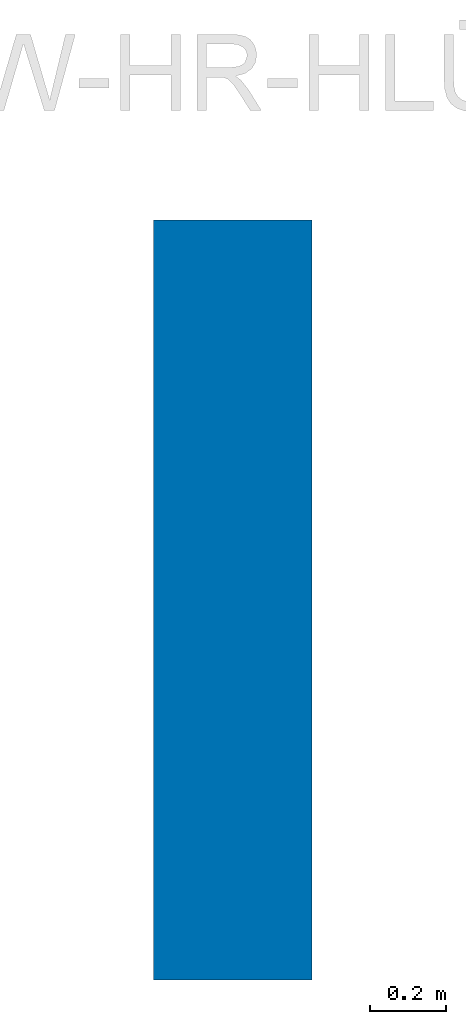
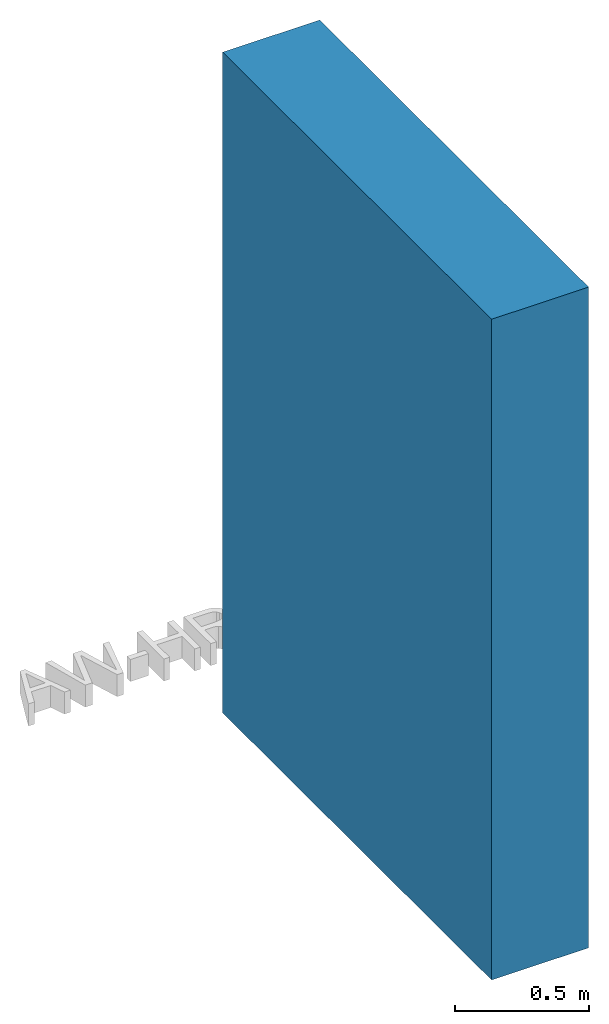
# Not in any storey, part 1 of 2: 1 wall.
"""IFC2X3 model written with IfcOpenShell, lengths in metres."""

import ifcopenshell
import ifcopenshell.guid

model = None  # the IFC model being written
_history = None  # IfcOwnerHistory: only IFC2X3 demands one
_inside = {}  # id of a spatial element -> (the spatial element, [elements in it])
_under = {}  # id of a project, library or spatial element -> (it, [spatial elements below it])
_declared = {}  # id of a project -> (the project, [libraries it declares])
_typed = {}  # id of a type object -> (the type object, [elements of that type])
_made_of = {}  # id of a material, layer set ... -> (it, [elements and type objects made of it])


def new_model(schema):
    """Start an empty IFC model of exactly this schema.

    Asked for "IFC4X3", IfcOpenShell would pick the latest addendum, in which some entities
    have other attributes; the version numbers below select the first issue.
    IFC2X3 requires an IfcOwnerHistory on every rooted entity: one is made here for all.
    """
    global model, _history
    if schema == "IFC4X3":
        model = ifcopenshell.file(schema_version=(4, 3, 0, 0))
    else:
        model = ifcopenshell.file(schema=schema)
    _inside.clear()
    _under.clear()
    _declared.clear()
    _typed.clear()
    _made_of.clear()
    _history = None
    if model.schema == "IFC2X3":
        org = make("IfcOrganization", Name="unknown")
        user = make(
            "IfcPersonAndOrganization",
            ThePerson=make("IfcPerson", FamilyName="unknown"),
            TheOrganization=org,
        )
        app = make(
            "IfcApplication",
            ApplicationDeveloper=org,
            Version="unknown",
            ApplicationFullName="unknown",
            ApplicationIdentifier="unknown",
        )
        _history = make(
            "IfcOwnerHistory",
            OwningUser=user,
            OwningApplication=app,
            ChangeAction="ADDED",
            CreationDate=0,
        )
    return model


def make(cls, **values):
    """One entity of the class cls with the attributes given. An attribute that is None is left unset."""
    return model.create_entity(
        cls, **{name: value for name, value in values.items() if value is not None}
    )


def entity(cls, *values):
    """Any entity or typed value of the class cls, its attributes in the order of the schema. None: left unset."""
    e = model.create_entity(cls)
    for i, value in enumerate(values):
        if value is not None:
            e[i] = value
    return e


def rooted(cls, **values):
    """An entity with a GlobalId (a new one), such as an element, a storey or a relation."""
    return make(cls, GlobalId=ifcopenshell.guid.new(), OwnerHistory=_history, **values)


def si_unit(unit_type, name, prefix=None):
    """IfcSIUnit, for example si_unit("LENGTHUNIT", "METRE", prefix="MILLI")."""
    return make("IfcSIUnit", UnitType=unit_type, Prefix=prefix, Name=name)


def converted_unit(unit_type, name, factor, base, dimensions=None, offset=None):
    """IfcConversionBasedUnit, such as the inch: factor (a typed value) times the base unit."""
    return make(
        "IfcConversionBasedUnit"
        if offset is None
        else "IfcConversionBasedUnitWithOffset",
        ConversionOffset=offset,
        Dimensions=None
        if dimensions is None
        else entity("IfcDimensionalExponents", *dimensions),
        UnitType=unit_type,
        Name=name,
        ConversionFactor=make(
            "IfcMeasureWithUnit", ValueComponent=factor, UnitComponent=base
        ),
    )


def derived_unit(unit_type, elements):
    """IfcDerivedUnit: a product of units, each with its exponent."""
    return make(
        "IfcDerivedUnit",
        Elements=[
            make("IfcDerivedUnitElement", Unit=unit, Exponent=power)
            for unit, power in elements
        ],
        UnitType=unit_type,
    )


def assignment(units):
    """IfcUnitAssignment: the units of a project."""
    return None if units is None else make("IfcUnitAssignment", Units=units)


def point(xyz):
    """IfcCartesianPoint."""
    return None if xyz is None else make("IfcCartesianPoint", Coordinates=xyz)


def direction(xyz):
    """IfcDirection."""
    return None if xyz is None else make("IfcDirection", DirectionRatios=xyz)


def frame(location, z_axis=None, x_axis=None):
    """IfcAxis2Placement3D, a coordinate frame: its origin and axes. An axis left out is left unset."""
    return make(
        "IfcAxis2Placement3D",
        Location=point(location),
        Axis=direction(z_axis),
        RefDirection=direction(x_axis),
    )


def frame_2d(location, x_axis=None):
    """IfcAxis2Placement2D, a coordinate frame in the plane: its origin and x axis."""
    return make(
        "IfcAxis2Placement2D", Location=point(location), RefDirection=direction(x_axis)
    )


def origin():
    """The frame at (0, 0, 0) with its axes left unset."""
    return frame((0.0, 0.0, 0.0))


def place(relative_to, where):
    """IfcLocalPlacement: puts the frame where relative to a parent placement (None: the world)."""
    return make(
        "IfcLocalPlacement", PlacementRelTo=relative_to, RelativePlacement=where
    )


def context(
    kind, dimensions, precision=None, world=None, true_north=None, identifier=None
):
    """IfcGeometricRepresentationContext, for example the 3D "Model" context."""
    return make(
        "IfcGeometricRepresentationContext",
        ContextIdentifier=identifier,
        ContextType=kind,
        CoordinateSpaceDimension=dimensions,
        Precision=precision,
        WorldCoordinateSystem=world,
        TrueNorth=true_north,
    )


def subcontext(parent, identifier, kind, view, scale=None):
    """IfcGeometricRepresentationSubContext, for example "Body" below "Model"."""
    return make(
        "IfcGeometricRepresentationSubContext",
        ContextIdentifier=identifier,
        ContextType=kind,
        ParentContext=parent,
        TargetScale=scale,
        TargetView=view,
    )


def project(units=None, contexts=None):
    """IfcProject with its units and contexts."""
    return rooted(
        "IfcProject",
        Name="project",
        RepresentationContexts=contexts,
        UnitsInContext=assignment(units),
    )


def spatial(cls, under=None, at=None, **own):
    """A site, building, storey or space (cls), placed at a placement, below another one or the project."""
    s = rooted(cls, ObjectPlacement=at, **own)
    if under is not None:
        _under.setdefault(under.id(), (under, []))[1].append(s)
    return s


def profile(cls, at=None, kind="AREA", **sizes):
    """A parametric profile (cls). Its sizes go by their IFC names, for example OverallWidth=200.0."""
    return make(cls, ProfileType=kind, Position=at, **sizes)


def rectangle(**sizes):
    """IfcRectangleProfileDef."""
    return profile("IfcRectangleProfileDef", **sizes)


def extrude(swept, where, along, depth):
    """IfcExtrudedAreaSolid: the profile swept, set in the frame where, extruded along a direction by depth."""
    return make(
        "IfcExtrudedAreaSolid",
        SweptArea=swept,
        Position=where,
        ExtrudedDirection=direction(along),
        Depth=depth,
    )


def shape(context_of_items, identifier, shape_type, items):
    """IfcShapeRepresentation: the items that make up one representation, for example the "Body"."""
    return make(
        "IfcShapeRepresentation",
        ContextOfItems=context_of_items,
        RepresentationIdentifier=identifier,
        RepresentationType=shape_type,
        Items=items,
    )


def material(Name=None, Category=None):
    """IfcMaterial."""
    return make("IfcMaterial", Name=Name, Category=Category)


def layer(
    of_material, thickness, ventilated=None, Name=None, Category=None, Priority=None
):
    """IfcMaterialLayer: one layer of a wall or slab, of a material (None: an air gap)."""
    return make(
        "IfcMaterialLayer",
        Material=of_material,
        LayerThickness=thickness,
        IsVentilated=ventilated,
        Name=Name,
        Category=Category,
        Priority=Priority,
    )


def layer_set(layers, Name=None):
    """IfcMaterialLayerSet."""
    return make("IfcMaterialLayerSet", MaterialLayers=layers, LayerSetName=Name)


def layer_usage(for_layer_set, set_direction, sense, offset, extent=None):
    """IfcMaterialLayerSetUsage: how a layer set lies in its element."""
    return make(
        "IfcMaterialLayerSetUsage",
        ForLayerSet=for_layer_set,
        LayerSetDirection=set_direction,
        DirectionSense=sense,
        OffsetFromReferenceLine=offset,
        ReferenceExtent=extent,
    )


def made_of(thing, what):
    """Note that an element or type object is made of a material, layer set ...; save() writes the relation."""
    if what is not None:
        _made_of.setdefault(what.id(), (what, []))[1].append(thing)
    return thing


def type_object(cls, material=None, **own):
    """A type object (cls), such as IfcWallType, which elements share."""
    return made_of(rooted(cls, **own), material)


def element(
    cls,
    number,
    at=None,
    inside=None,
    cuts=None,
    type_object=None,
    material=None,
    context=None,
    identifier="Body",
    shape_type=None,
    held_by="IfcProductDefinitionShape",
    body=None,
    shapes=None,
    **own,
):
    """One element of the class cls, such as IfcWall. Its Tag is "e" and its number.

    at: its placement. inside: the storey or other place that contains it. cuts: it is an
    opening in that element (IfcRelVoidsElement). A single representation is given by context,
    identifier, shape_type and body (its items); several are given by shapes. held_by: the class
    of the entity that holds the representations. save() writes the other relations.
    """
    e = rooted(cls, Tag="e%d" % number, ObjectPlacement=at, **own)
    if body is not None:
        shapes = [shape(context, identifier, shape_type, body)]
    if shapes is not None:
        e.Representation = make(held_by, Representations=shapes)
    if inside is not None:
        _inside.setdefault(inside.id(), (inside, []))[1].append(e)
    if cuts is not None:
        rooted(
            "IfcRelVoidsElement", RelatingBuildingElement=cuts, RelatedOpeningElement=e
        )
    if type_object is not None:
        _typed.setdefault(type_object.id(), (type_object, []))[1].append(e)
    return made_of(e, material)


def aggregate(whole, parts):
    """IfcRelAggregates: a whole, such as a stair, and the parts it consists of."""
    return rooted("IfcRelAggregates", RelatingObject=whole, RelatedObjects=parts)


def save(model, path):
    """Write the relations noted so far, then the file.

    IfcRelAggregates (storeys below a building ...), IfcRelContainedInSpatialStructure (elements
    in a storey), IfcRelDefinesByType, IfcRelAssociatesMaterial and IfcRelDeclares: one each for
    every whole, place, type object, material and project.
    """
    for whole, parts in _under.values():
        aggregate(whole, parts)
    for where, things in _inside.values():
        rooted(
            "IfcRelContainedInSpatialStructure",
            RelatedElements=things,
            RelatingStructure=where,
        )
    for kind, things in _typed.values():
        rooted("IfcRelDefinesByType", RelatedObjects=things, RelatingType=kind)
    for what, things in _made_of.values():
        rooted("IfcRelAssociatesMaterial", RelatedObjects=things, RelatingMaterial=what)
    for by, libraries in _declared.values():
        rooted("IfcRelDeclares", RelatingContext=by, RelatedDefinitions=libraries)
    model.write(path)


model = new_model("IFC2X3")

# Units and contexts
model_context = context("Model", 3, precision=1e-05, world=origin(), true_north=direction((6.123031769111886e-17, 1.0)))
body_context = subcontext(model_context, "Body", "Model", "MODEL_VIEW")
ifc_project = project(units=[si_unit("LENGTHUNIT", "METRE"), si_unit("AREAUNIT", "SQUARE_METRE"), si_unit("VOLUMEUNIT", "CUBIC_METRE"), converted_unit("PLANEANGLEUNIT", "DEGREE", entity("IfcRatioMeasure", 0.017453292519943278), si_unit("PLANEANGLEUNIT", "RADIAN"), dimensions=[0, 0, 0, 0, 0, 0, 0]), si_unit("MASSUNIT", "GRAM", prefix="KILO"), derived_unit("MASSDENSITYUNIT", [(si_unit("MASSUNIT", "GRAM", prefix="KILO"), 1), (si_unit("LENGTHUNIT", "METRE"), -3)]), derived_unit("MOMENTOFINERTIAUNIT", [(si_unit("LENGTHUNIT", "METRE"), 4)]), si_unit("TIMEUNIT", "SECOND"), si_unit("FREQUENCYUNIT", "HERTZ"), si_unit("THERMODYNAMICTEMPERATUREUNIT", "DEGREE_CELSIUS"), derived_unit("THERMALTRANSMITTANCEUNIT", [(si_unit("MASSUNIT", "GRAM", prefix="KILO"), 1), (si_unit("THERMODYNAMICTEMPERATUREUNIT", "KELVIN"), -1), (si_unit("TIMEUNIT", "SECOND"), -3)]), derived_unit("VOLUMETRICFLOWRATEUNIT", [(si_unit("LENGTHUNIT", "METRE"), 3), (si_unit("TIMEUNIT", "SECOND"), -1)]), derived_unit("MASSFLOWRATEUNIT", [(si_unit("MASSUNIT", "GRAM", prefix="KILO"), 1), (si_unit("TIMEUNIT", "SECOND"), -1)]), derived_unit("ROTATIONALFREQUENCYUNIT", [(si_unit("TIMEUNIT", "SECOND"), -1)]), si_unit("ELECTRICCURRENTUNIT", "AMPERE"), si_unit("ELECTRICVOLTAGEUNIT", "VOLT"), si_unit("POWERUNIT", "WATT"), si_unit("FORCEUNIT", "NEWTON", prefix="KILO"), si_unit("ILLUMINANCEUNIT", "LUX"), si_unit("LUMINOUSFLUXUNIT", "LUMEN"), si_unit("LUMINOUSINTENSITYUNIT", "CANDELA"), derived_unit("USERDEFINED", [(si_unit("MASSUNIT", "GRAM", prefix="KILO"), -1), (si_unit("LENGTHUNIT", "METRE"), -2), (si_unit("TIMEUNIT", "SECOND"), 3), (si_unit("LUMINOUSFLUXUNIT", "LUMEN"), 1)]), derived_unit("SOUNDPOWERUNIT", [(si_unit("MASSUNIT", "GRAM", prefix="KILO"), 1), (si_unit("LENGTHUNIT", "METRE"), 2), (si_unit("TIMEUNIT", "SECOND"), -3)]), derived_unit("SOUNDPRESSUREUNIT", [(si_unit("MASSUNIT", "GRAM", prefix="KILO"), 1), (si_unit("LENGTHUNIT", "METRE"), -1), (si_unit("TIMEUNIT", "SECOND"), -2)]), derived_unit("LINEARVELOCITYUNIT", [(si_unit("LENGTHUNIT", "METRE"), 1), (si_unit("TIMEUNIT", "SECOND"), -1)]), si_unit("PRESSUREUNIT", "PASCAL"), derived_unit("USERDEFINED", [(si_unit("LENGTHUNIT", "METRE"), -2), (si_unit("MASSUNIT", "GRAM", prefix="KILO"), 1), (si_unit("TIMEUNIT", "SECOND"), -2)]), derived_unit("LINEARFORCEUNIT", [(si_unit("MASSUNIT", "GRAM", prefix="KILO"), 1), (si_unit("LENGTHUNIT", "METRE"), 1), (si_unit("TIMEUNIT", "SECOND"), -2), (si_unit("LENGTHUNIT", "METRE"), -1)]), derived_unit("PLANARFORCEUNIT", [(si_unit("MASSUNIT", "GRAM", prefix="KILO"), 1), (si_unit("LENGTHUNIT", "METRE"), 1), (si_unit("TIMEUNIT", "SECOND"), -2), (si_unit("LENGTHUNIT", "METRE"), -2)])], contexts=[model_context])

# Site
site_placement = place(None, origin())
site = spatial("IfcSite", under=ifc_project, at=site_placement, Name="Default", CompositionType="ELEMENT")

# Wall
ifc_material_1 = material(Name="fbim_12400515_AT_025_Vollholz_Bretter_Laerche")
ifc_layer_1 = layer(ifc_material_1, 0.019)
ifc_material_2 = material(Name="fbim_14100590_AT_001_Luftschicht")
ifc_layer_2 = layer(ifc_material_2, 0.04)
ifc_material_3 = material(Name="fbim_16101505_AT_001_Gipsfaserplatte_12.5mm")
ifc_layer_3 = layer(ifc_material_3, 0.015)
ifc_material_4 = material(Name="fbim_14104515_AT_090_Zellulose_Einblasdaemmung")
ifc_layer_4 = layer(ifc_material_4, 0.28)
ifc_material_5 = material(Name="fbim_12401520_AT_001_OSB_Platte")
ifc_layer_5 = layer(ifc_material_5, 0.018000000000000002)
ifc_material_6 = material(Name="fbim_16200505_AT_050_Lehm_Grundputz")
ifc_layer_6 = layer(ifc_material_6, 0.04)
ifc_material_7 = material(Name="fbim_16200510_AT_050_Lehm_Duennputz")
ifc_layer_7 = layer(ifc_material_7, 0.005)
ifc_layer_set = layer_set([ifc_layer_1, ifc_layer_2, ifc_layer_3, ifc_layer_4, ifc_layer_5, ifc_layer_6, ifc_layer_7], Name="Basiswand:fbimSg_Wall_lb_WOD_vis_at_NTR_natuREbuilt_AW-HR-HLÜ-L_GK4")
ifc_layer_usage = layer_usage(ifc_layer_set, "AXIS2", "NEGATIVE", 0.2085)
wall_type = type_object("IfcWallType", Name="Basiswand:fbimSg_Wall_lb_WOD_vis_at_NTR_natuREbuilt_AW-HR-HLÜ-L_GK4", PredefinedType="STANDARD", material=ifc_layer_set)
wall_placement = place(site_placement, frame((7.870756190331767, 23.919849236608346, 0.0), z_axis=(0.0, 0.0, 1.0), x_axis=(0.0, -1.0, 0.0)))
element("IfcWallStandardCase", 1, at=wall_placement, inside=site, type_object=wall_type, material=ifc_layer_usage, Name="Basiswand:fbimSg_Wall_lb_WOD_vis_at_NTR_natuREbuilt_AW-HR-HLÜ-L_GK4", ObjectType="Basiswand:fbimSg_Wall_lb_WOD_vis_at_NTR_natuREbuilt_AW-HR-HLÜ-L_GK4", context=body_context, shape_type="SweptSolid", body=[
    extrude(rectangle(XDim=2.0, YDim=0.4170000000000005, at=frame_2d((1.0, 0.0), x_axis=(-1.0, 0.0))), origin(), (0.0, 0.0, 1.0), 3.0000000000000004),
])

save(model, "model.ifc")
